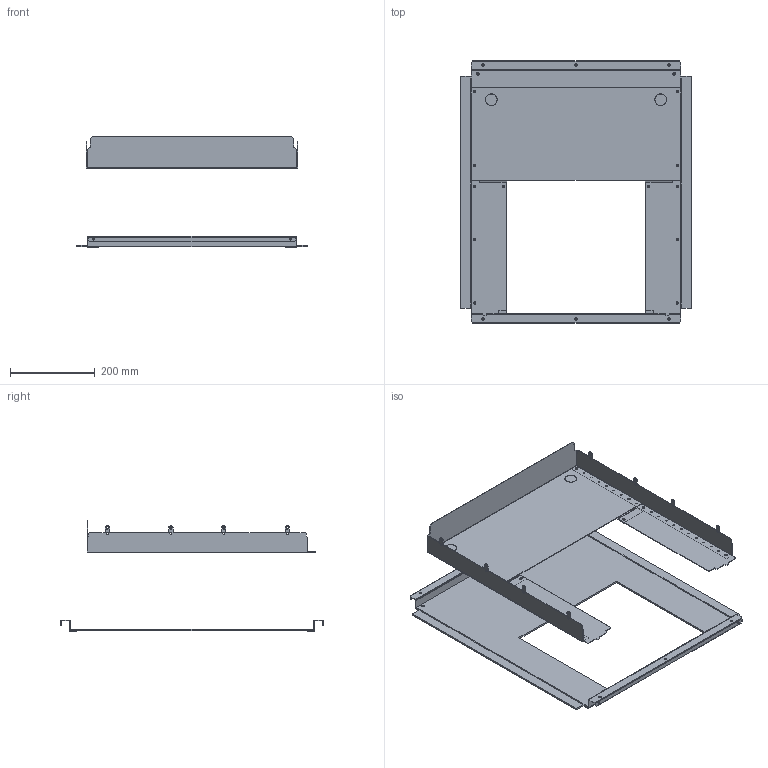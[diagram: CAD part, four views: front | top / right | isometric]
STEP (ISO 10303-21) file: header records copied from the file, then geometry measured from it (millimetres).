
FILE_DESCRIPTION(('CAx-IF Rec.Pracs.---Model Styling and Organization---1.2---2011-12-15','CAx-IF Rec.Pracs.---Geometric and Assembly Validation Properties---4.1---2014-06-16','CAx-IF Rec.Pracs.---PMI Polyline Presentation---2.0---2013-05-24'),'2;1');
FILE_NAME('R5FRC7V61122.stp','2021-07-29T02:05:01+03:00',(''),(''),'STEP Interface 4.4 by CT CoreTechnologie','3D_Evolution4.4 by CT CoreTechnologie','');
FILE_SCHEMA(('AUTOMOTIVE_DESIGN { 1 0 10303 214 1 1 1 1 }'));
Length unit declared in the file: millimetre
Products named in the file (1): R5FRC6V61122
Bounding box: 545 x 621 x 262 mm (x, y, z)
Surface area: 1093494 mm2 (no closed solid volume)
Topology: 0 solids, 10 shells, 526 faces, 1470 edges, 964 vertices
Faces by surface type: plane 288, cylinder 238
Entity records: 17374 total; most frequent: DIRECTION 3000, CARTESIAN_POINT 2961, ORIENTED_EDGE 2940, EDGE_CURVE 1470, AXIS2_PLACEMENT_3D 1003, VECTOR 994, LINE 994, VERTEX_POINT 964
